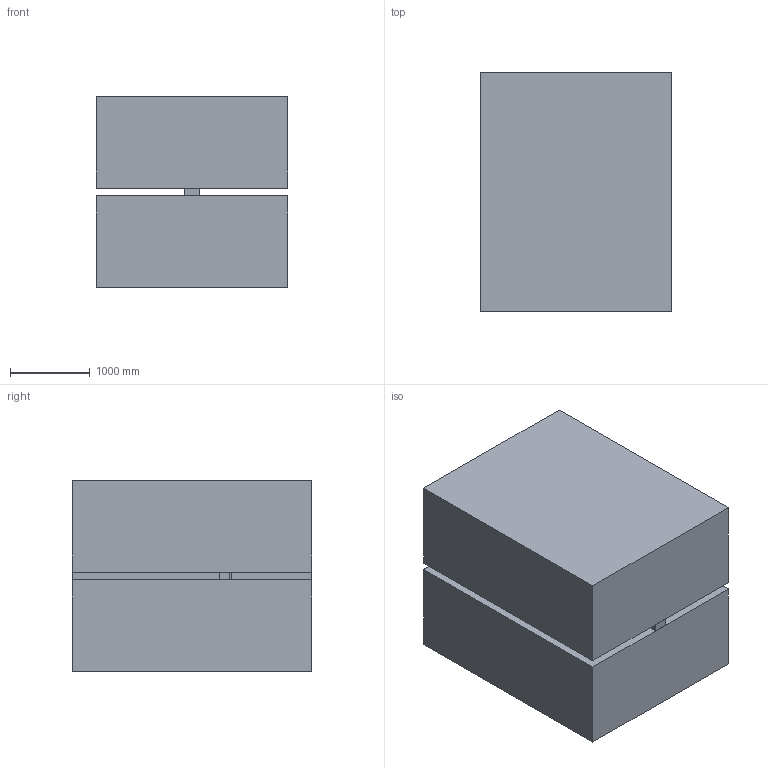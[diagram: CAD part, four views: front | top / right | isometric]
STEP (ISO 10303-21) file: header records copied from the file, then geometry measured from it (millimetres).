
FILE_DESCRIPTION(/* description */ (''),/* implementation_level */ '2;1');
FILE_NAME(/* name */ 'HeatTransferTest v2.step',/* time_stamp */ '2024-09-30T15:55:41-07:00',/* author */ (''),/* organization */ (''),/* preprocessor_version */ 'ST-DEVELOPER v20',/* originating_system */ 'Autodesk Translation Framework v13.20.0.188',/* authorisation */ '');
FILE_SCHEMA (('AUTOMOTIVE_DESIGN { 1 0 10303 214 3 1 1 }'));
Length unit declared in the file: millimetre
Products named in the file (4): HeatTransferTest; Component1; Domain; FanComponent
Assembly tree (10 placements, depth 3):
  HeatTransferTest
    Component1
      Domain
    FanComponent  x8
Bounding box: 2400 x 3000 x 2400 mm (x, y, z)
Volume: 16637328990 mm3; surface area: 54121667.3 mm2
Topology: 25 solids, 25 shells, 131 faces, 240 edges, 160 vertices
Faces by surface type: plane 99, cylinder 32
Full cylindrical faces by diameter (mm): 9 x16, 39 x16
Entity records: 1061 total; most frequent: DIRECTION 174, CARTESIAN_POINT 167, ORIENTED_EDGE 144, EDGE_CURVE 72, LINE 64, VECTOR 64, AXIS2_PLACEMENT_3D 55, VERTEX_POINT 48
